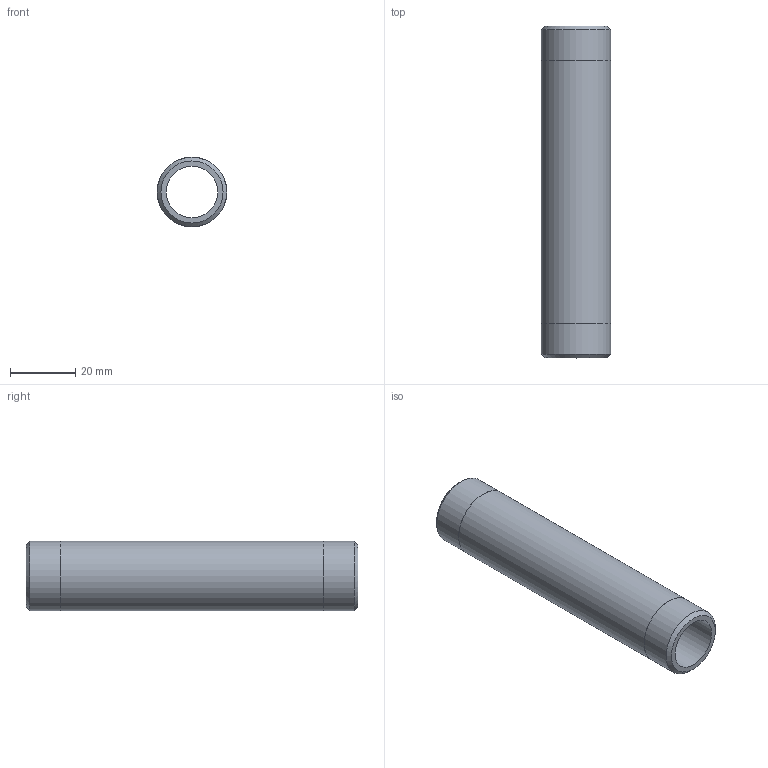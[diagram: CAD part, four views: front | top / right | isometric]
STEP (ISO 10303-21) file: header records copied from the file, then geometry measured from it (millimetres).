
FILE_DESCRIPTION(/* description */ (''),/* implementation_level */ '2;1');
FILE_NAME(/* name */ 'C:/Users/drich/Desktop/SSPN12-4 v1.step',/* time_stamp */ '2020-01-04T12:50:54-06:00',/* author */ (''),/* organization */ (''),/* preprocessor_version */ 'ST-DEVELOPER v18',/* originating_system */ 'Autodesk Translation Framework v8.12.0.6',/* authorisation */ '');
FILE_SCHEMA (('AUTOMOTIVE_DESIGN { 1 0 10303 214 3 1 1 }'));
Length unit declared in the file: inch
Products named in the file (1): SSPN12-4
Bounding box: 21.34 x 101.6 x 21.34 mm (x, y, z)
Volume: 16287.5 mm3; surface area: 12079.5 mm2
Topology: 1 solids, 1 shells, 10 faces, 24 edges, 18 vertices
Faces by surface type: cylinder 4, plane 4, cone 2
Full cylindrical faces by diameter (mm): 15.799 x1, 21.285 x2, 21.336 x1
Entity records: 353 total; most frequent: DIRECTION 64, CARTESIAN_POINT 53, ORIENTED_EDGE 48, AXIS2_PLACEMENT_3D 29, EDGE_CURVE 24, CIRCLE 18, VERTEX_POINT 18, EDGE_LOOP 14
